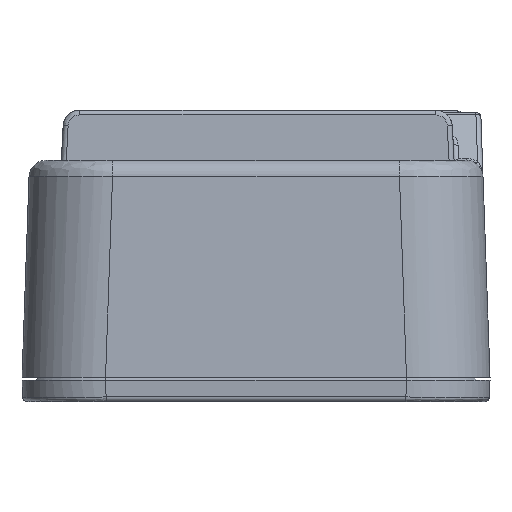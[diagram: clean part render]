
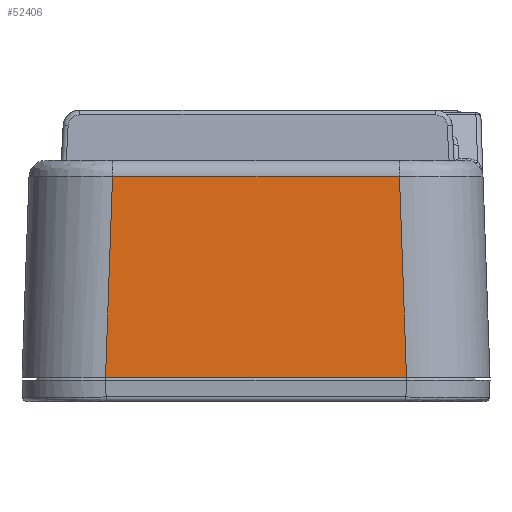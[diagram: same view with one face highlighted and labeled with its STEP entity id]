
A CAD part, left-side view. The second image highlights one B-rep face of the part: STEP entity #52406.
In plain terms, the highlighted planar face has unit normal (-0.999, 0, 0.035).
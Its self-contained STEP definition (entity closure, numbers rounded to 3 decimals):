
#20973=CARTESIAN_POINT('',(-4.5,20.003,-7.48));
#20983=DIRECTION('',(0.,-1.,0.));
#20984=VECTOR('',#20983,18.006);
#20985=CARTESIAN_POINT('',(-4.5,20.003,-7.48));
#20986=LINE('',#20985,#20984);
#20995=CARTESIAN_POINT('',(-4.5,1.997,-7.48));
#28608=CARTESIAN_POINT('',(-4.08,2.417,
4.535));
#28620=DIRECTION('',(0.,-1.,0.));
#28621=VECTOR('',#28620,17.167);
#28622=CARTESIAN_POINT('',(-4.08,19.583,
4.535));
#28623=LINE('',#28622,#28621);
#28624=DIRECTION('',(-0.035,-0.035,-0.999));
#28625=VECTOR('',#28624,12.03);
#28626=CARTESIAN_POINT('',(-4.08,2.417,
4.535));
#28627=LINE('',#28626,#28625);
#28628=DIRECTION('',(-0.035,0.035,-0.999));
#28629=VECTOR('',#28628,12.03);
#28630=CARTESIAN_POINT('',(-4.08,19.583,
4.535));
#28631=LINE('',#28630,#28629);
#36851=VERTEX_POINT('',#20973);
#36854=VERTEX_POINT('',#20995);
#36881=VERTEX_POINT('',#28608);
#36885=CARTESIAN_POINT('',(-4.08,19.583,
4.535));
#36886=VERTEX_POINT('',#36885);
#52393=CARTESIAN_POINT('',(-4.5,27.159,-7.48));
#52394=DIRECTION('',(-0.999,0.,0.035));
#52395=DIRECTION('',(0.,1.,0.));
#52396=AXIS2_PLACEMENT_3D('',#52393,#52394,#52395);
#52397=PLANE('',#52396);
#52399=ORIENTED_EDGE('',*,*,#52398,.T.);
#52400=ORIENTED_EDGE('',*,*,#52388,.T.);
#52401=ORIENTED_EDGE('',*,*,#39138,.F.);
#52403=ORIENTED_EDGE('',*,*,#52402,.F.);
#52404=EDGE_LOOP('',(#52399,#52400,#52401,#52403));
#52405=FACE_OUTER_BOUND('',#52404,.F.);
#52406=ADVANCED_FACE('',(#52405),#52397,.T.);
#39138=EDGE_CURVE('',#36851,#36854,#20986,.T.);
#52388=EDGE_CURVE('',#36881,#36854,#28627,.T.);
#52398=EDGE_CURVE('',#36886,#36881,#28623,.T.);
#52402=EDGE_CURVE('',#36886,#36851,#28631,.T.);
